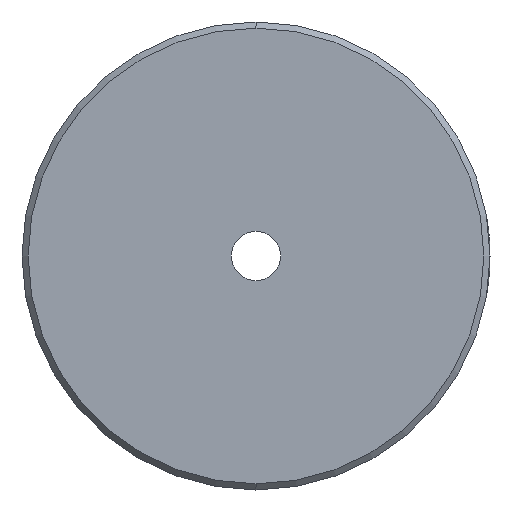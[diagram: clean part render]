
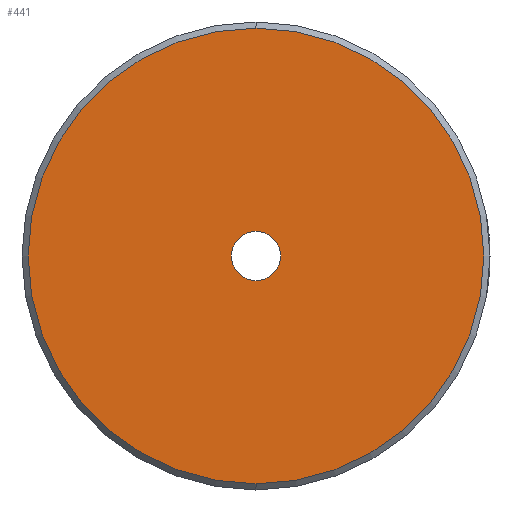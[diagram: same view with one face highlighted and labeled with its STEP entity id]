
A CAD part, left-side view. The second image highlights one B-rep face of the part: STEP entity #441.
In plain terms, the highlighted planar face has unit normal (-1, 0, 0).
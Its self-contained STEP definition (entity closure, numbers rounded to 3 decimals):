
#25 = CARTESIAN_POINT ( 'NONE',  ( 0., 2., 0. ) ) ;
#43 = ORIENTED_EDGE ( 'NONE', *, *, #90, .F. ) ;
#54 = AXIS2_PLACEMENT_3D ( 'NONE', #25, #557, #401 ) ;
#77 = VERTEX_POINT ( 'NONE', #627 ) ;
#90 = EDGE_CURVE ( 'NONE', #419, #77, #141, .T. ) ;
#92 = DIRECTION ( 'NONE',  ( -1., 0., 0. ) ) ;
#103 = CARTESIAN_POINT ( 'NONE',  ( 0., 0., 0. ) ) ;
#111 = ORIENTED_EDGE ( 'NONE', *, *, #284, .F. ) ;
#119 = CARTESIAN_POINT ( 'NONE',  ( 0., 0., 0. ) ) ;
#123 = VERTEX_POINT ( 'NONE', #481 ) ;
#141 = CIRCLE ( 'NONE', #691, 2. ) ;
#144 = ORIENTED_EDGE ( 'NONE', *, *, #241, .T. ) ;
#157 = CIRCLE ( 'NONE', #255, 18.5 ) ;
#161 = DIRECTION ( 'NONE',  ( -1., 0., 0. ) ) ;
#241 = EDGE_CURVE ( 'NONE', #558, #123, #584, .T. ) ;
#255 = AXIS2_PLACEMENT_3D ( 'NONE', #391, #92, #565 ) ;
#284 = EDGE_CURVE ( 'NONE', #77, #419, #463, .T. ) ;
#347 = CARTESIAN_POINT ( 'NONE',  ( 0., 0., -2. ) ) ;
#349 = EDGE_LOOP ( 'NONE', ( #435, #144 ) ) ;
#375 = CARTESIAN_POINT ( 'NONE',  ( 0., 0., 18.5 ) ) ;
#391 = CARTESIAN_POINT ( 'NONE',  ( 0., 0., 0. ) ) ;
#401 = DIRECTION ( 'NONE',  ( 0., 0., -1. ) ) ;
#419 = VERTEX_POINT ( 'NONE', #347 ) ;
#424 = FACE_OUTER_BOUND ( 'NONE', #349, .T. ) ;
#435 = ORIENTED_EDGE ( 'NONE', *, *, #436, .T. ) ;
#436 = EDGE_CURVE ( 'NONE', #123, #558, #157, .T. ) ;
#441 = ADVANCED_FACE ( 'NONE', ( #485, #424 ), #511, .F. ) ;
#458 = AXIS2_PLACEMENT_3D ( 'NONE', #119, #666, #575 ) ;
#463 = CIRCLE ( 'NONE', #458, 2. ) ;
#472 = DIRECTION ( 'NONE',  ( -1., 0., 0. ) ) ;
#473 = EDGE_LOOP ( 'NONE', ( #43, #111 ) ) ;
#481 = CARTESIAN_POINT ( 'NONE',  ( 0., 0., -18.5 ) ) ;
#485 = FACE_BOUND ( 'NONE', #473, .T. ) ;
#492 = DIRECTION ( 'NONE',  ( 0., 0., 1. ) ) ;
#511 = PLANE ( 'NONE',  #54 ) ;
#515 = AXIS2_PLACEMENT_3D ( 'NONE', #699, #161, #523 ) ;
#523 = DIRECTION ( 'NONE',  ( 0., 0., 1. ) ) ;
#557 = DIRECTION ( 'NONE',  ( 1., 0., 0. ) ) ;
#558 = VERTEX_POINT ( 'NONE', #375 ) ;
#565 = DIRECTION ( 'NONE',  ( 0., 0., 1. ) ) ;
#575 = DIRECTION ( 'NONE',  ( 0., 0., 1. ) ) ;
#584 = CIRCLE ( 'NONE', #515, 18.5 ) ;
#627 = CARTESIAN_POINT ( 'NONE',  ( 0., 0., 2. ) ) ;
#666 = DIRECTION ( 'NONE',  ( -1., 0., 0. ) ) ;
#691 = AXIS2_PLACEMENT_3D ( 'NONE', #103, #472, #492 ) ;
#699 = CARTESIAN_POINT ( 'NONE',  ( 0., 0., 0. ) ) ;
